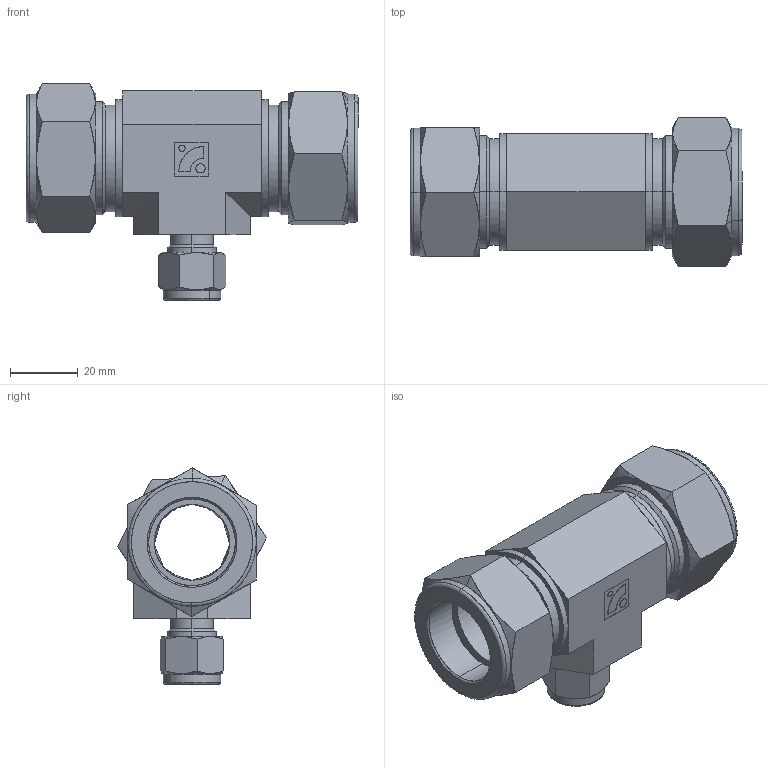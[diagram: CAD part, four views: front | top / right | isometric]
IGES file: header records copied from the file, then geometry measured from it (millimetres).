
Start section: Comment
Global section: file name: SRUT16-16-6.igs; native system:  By UGS Corp.; preprocessor: XPlus GENERIC/IGES 3.0; author: Author; organization: Title; date: 20100713.193914; units: millimetre
Bounding box: 98.05 x 43.92 x 63.91 mm (x, y, z)
Surface area: 30704 mm2 (no closed solid volume)
Topology: 0 solids, 0 shells, 187 faces, 834 edges, 834 vertices
Faces by surface type: bspline 187
